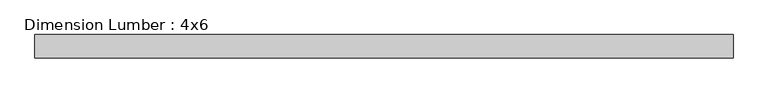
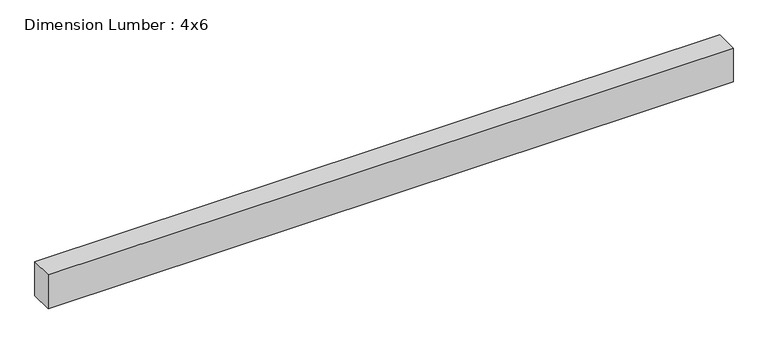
"""IFC4 building model written with IfcOpenShell, lengths in millimetres: beam geometry, Dimension Lumber : 4x6."""

from ifc_helpers import new_model, si_unit, frame, origin, place, context, project, spatial, polyline, outline, extrude, source, transform, mapped, element, save


def dimension_lumber_4x6_36e82c96(model_context):
    return source(origin(), model_context, "Body", "SweptSolid", [
        extrude(outline(polyline([(1333.5, 44.45), (1333.5, -44.45), (-1333.5, -44.45), (-1333.5, 44.45), (1333.5, 44.45)])), frame((0.0, 0.0, -69.85), z_axis=(0.0, 0.0, 1.0), x_axis=(1.0, 0.0, 0.0)), (0.0, 0.0, 1.0), 139.7),
    ])


if __name__ == "__main__":
    model = new_model("IFC4")
    model_context = context("Model", 3, world=origin())
    ifc_project = project(units=[si_unit("LENGTHUNIT", "METRE", prefix="MILLI")], contexts=[model_context])
    site = spatial("IfcSite", under=ifc_project)
    building = spatial("IfcBuilding", under=site)
    placement = place(None, origin())
    dimension_lumber_4x6_shape = dimension_lumber_4x6_36e82c96(model_context)
    element("IfcBeam", 1, ObjectType="Dimension Lumber : 4x6", at=placement, inside=building, context=model_context, shape_type="MappedRepresentation", body=[
        mapped(dimension_lumber_4x6_shape, transform((0.0, 0.0, 0.0), x_axis=(1.0, 0.0, 0.0), y_axis=(0.0, 1.0, 0.0), z_axis=(0.0, 0.0, 1.0))),
    ])
    save(model, "model.ifc")
